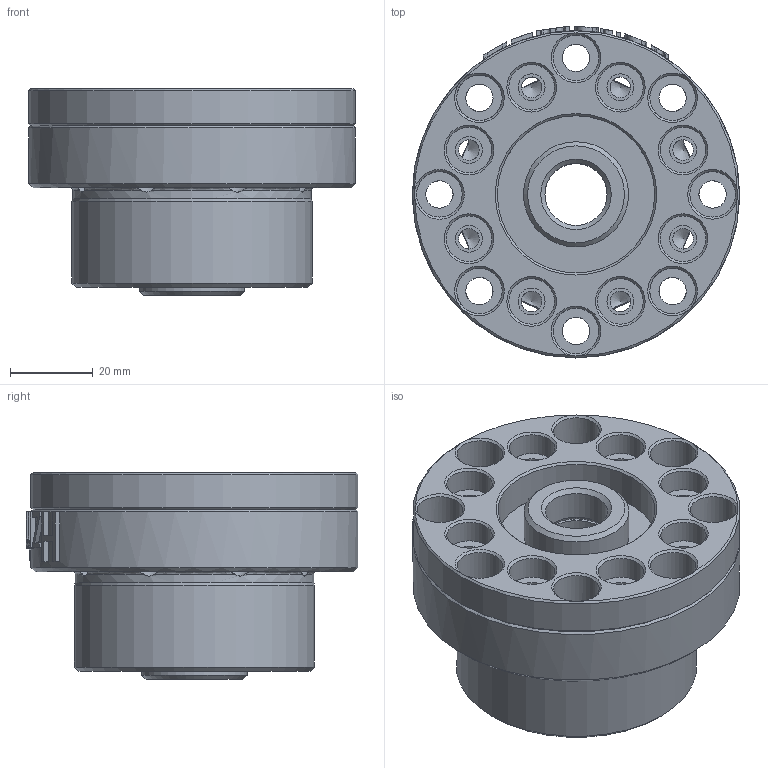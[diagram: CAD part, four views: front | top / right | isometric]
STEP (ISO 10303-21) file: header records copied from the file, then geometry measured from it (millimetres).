
FILE_DESCRIPTION(/* description */ (''),/* implementation_level */ '2;1');
FILE_NAME(/* name */ 'MBK15DF.stp',/* time_stamp */ '2016-10-26T18:36:02+08:00',/* author */ (''),/* organization */ (''),/* preprocessor_version */ 'ST-DEVELOPER v15',/* originating_system */ 'SIEMENS PLM Software NX 8.5',/* authorisation */ '');
FILE_SCHEMA (('CONFIG_CONTROL_DESIGN'));
Length unit declared in the file: millimetre
Products named in the file (1): MBK15DF
Bounding box: 79 x 80.18 x 50 mm (x, y, z)
Volume: 144818.8 mm3; surface area: 38938.3 mm2
Topology: 2 solids, 3 shells, 271 faces, 776 edges, 496 vertices
Faces by surface type: plane 94, cylinder 67, cone 52, extrusion 41, bspline 17
Full cylindrical faces by diameter (mm): 5 x8, 6.5 x8, 6.6 x8, 11 x24, 15 x3, 25.4 x3, 38 x1, 47 x1, 57.6 x1, 58 x1, 79 x2
Entity records: 9309 total; most frequent: CARTESIAN_POINT 3184, ORIENTED_EDGE 1216, DIRECTION 1114, EDGE_CURVE 608, AXIS2_PLACEMENT_3D 480, VERTEX_POINT 441, EDGE_LOOP 429, FACE_BOUND 300
